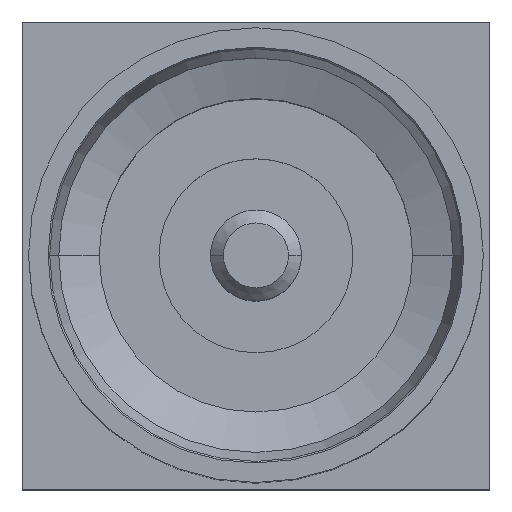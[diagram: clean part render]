
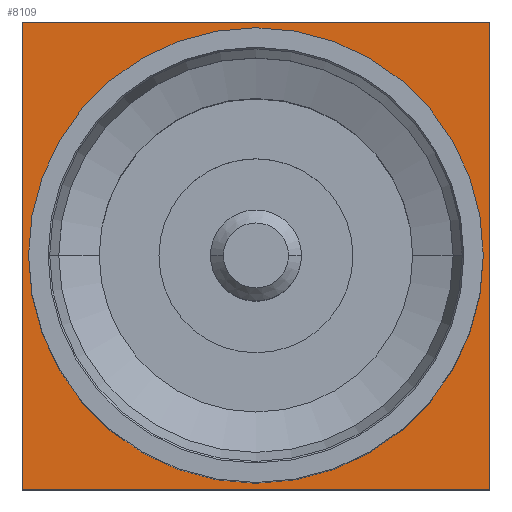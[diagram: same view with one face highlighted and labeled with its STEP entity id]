
A CAD part, top view. The second image highlights one B-rep face of the part: STEP entity #8109.
In plain terms, the highlighted planar face has unit normal (0, 0, 1).
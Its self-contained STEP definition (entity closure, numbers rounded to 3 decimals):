
#103 = EDGE_CURVE ( 'NONE', #9378, #1086, #14570, .T. ) ;
#1086 = VERTEX_POINT ( 'NONE', #9894 ) ;
#1228 = VERTEX_POINT ( 'NONE', #9881 ) ;
#1246 = CARTESIAN_POINT ( 'NONE',  ( -1.75, 0., 1. ) ) ;
#1457 = EDGE_LOOP ( 'NONE', ( #6948, #10606 ) ) ;
#1732 = ORIENTED_EDGE ( 'NONE', *, *, #3309, .T. ) ;
#1847 = VECTOR ( 'NONE', #15910, 1000. ) ;
#1894 = DIRECTION ( 'NONE',  ( -1., 0., 0. ) ) ;
#1957 = ORIENTED_EDGE ( 'NONE', *, *, #3389, .T. ) ;
#2987 = LINE ( 'NONE', #8004, #12996 ) ;
#3173 = DIRECTION ( 'NONE',  ( -1., 0., 0. ) ) ;
#3309 = EDGE_CURVE ( 'NONE', #11567, #14988, #12336, .T. ) ;
#3389 = EDGE_CURVE ( 'NONE', #14988, #7660, #4024, .T. ) ;
#4024 = LINE ( 'NONE', #13891, #4970 ) ;
#4471 = CARTESIAN_POINT ( 'NONE',  ( 0., 0., 1. ) ) ;
#4739 = DIRECTION ( 'NONE',  ( 0., 0., -1. ) ) ;
#4823 = CARTESIAN_POINT ( 'NONE',  ( 1.8, 1.8, 1. ) ) ;
#4970 = VECTOR ( 'NONE', #8803, 1000. ) ;
#5982 = VECTOR ( 'NONE', #7294, 1000. ) ;
#6539 = AXIS2_PLACEMENT_3D ( 'NONE', #7162, #4739, #1894 ) ;
#6577 = ORIENTED_EDGE ( 'NONE', *, *, #12881, .T. ) ;
#6845 = FACE_BOUND ( 'NONE', #1457, .T. ) ;
#6948 = ORIENTED_EDGE ( 'NONE', *, *, #103, .T. ) ;
#7162 = CARTESIAN_POINT ( 'NONE',  ( 0., 0., 1. ) ) ;
#7294 = DIRECTION ( 'NONE',  ( 1., 0., 0. ) ) ;
#7423 = AXIS2_PLACEMENT_3D ( 'NONE', #13991, #8065, #12241 ) ;
#7660 = VERTEX_POINT ( 'NONE', #10001 ) ;
#8004 = CARTESIAN_POINT ( 'NONE',  ( 1.8, -1.8, 1. ) ) ;
#8065 = DIRECTION ( 'NONE',  ( 0., 0., -1. ) ) ;
#8109 = ADVANCED_FACE ( 'NONE', ( #15571, #6845 ), #12829, .F. ) ;
#8803 = DIRECTION ( 'NONE',  ( 0., -1., 0. ) ) ;
#9378 = VERTEX_POINT ( 'NONE', #1246 ) ;
#9847 = CARTESIAN_POINT ( 'NONE',  ( -1.8, -1.8, 1. ) ) ;
#9881 = CARTESIAN_POINT ( 'NONE',  ( 1.8, -1.8, 1. ) ) ;
#9894 = CARTESIAN_POINT ( 'NONE',  ( 1.75, 0., 1. ) ) ;
#10001 = CARTESIAN_POINT ( 'NONE',  ( -1.8, -1.8, 1. ) ) ;
#10107 = AXIS2_PLACEMENT_3D ( 'NONE', #4471, #10996, #3173 ) ;
#10606 = ORIENTED_EDGE ( 'NONE', *, *, #11529, .T. ) ;
#10766 = EDGE_CURVE ( 'NONE', #7660, #1228, #14623, .T. ) ;
#10996 = DIRECTION ( 'NONE',  ( 0., 0., -1. ) ) ;
#11529 = EDGE_CURVE ( 'NONE', #1086, #9378, #16279, .T. ) ;
#11541 = DIRECTION ( 'NONE',  ( 0., 1., 0. ) ) ;
#11567 = VERTEX_POINT ( 'NONE', #4823 ) ;
#12103 = CARTESIAN_POINT ( 'NONE',  ( -1.8, 1.8, 1. ) ) ;
#12241 = DIRECTION ( 'NONE',  ( -1., 0., 0. ) ) ;
#12336 = LINE ( 'NONE', #12103, #1847 ) ;
#12829 = PLANE ( 'NONE',  #7423 ) ;
#12881 = EDGE_CURVE ( 'NONE', #1228, #11567, #2987, .T. ) ;
#12996 = VECTOR ( 'NONE', #11541, 1000. ) ;
#13039 = ORIENTED_EDGE ( 'NONE', *, *, #10766, .T. ) ;
#13891 = CARTESIAN_POINT ( 'NONE',  ( -1.8, -1.8, 1. ) ) ;
#13991 = CARTESIAN_POINT ( 'NONE',  ( 0., 0., 1. ) ) ;
#14187 = CARTESIAN_POINT ( 'NONE',  ( -1.8, 1.8, 1. ) ) ;
#14563 = EDGE_LOOP ( 'NONE', ( #6577, #1732, #1957, #13039 ) ) ;
#14570 = CIRCLE ( 'NONE', #10107, 1.75 ) ;
#14623 = LINE ( 'NONE', #9847, #5982 ) ;
#14988 = VERTEX_POINT ( 'NONE', #14187 ) ;
#15571 = FACE_OUTER_BOUND ( 'NONE', #14563, .T. ) ;
#15910 = DIRECTION ( 'NONE',  ( -1., 0., 0. ) ) ;
#16279 = CIRCLE ( 'NONE', #6539, 1.75 ) ;
